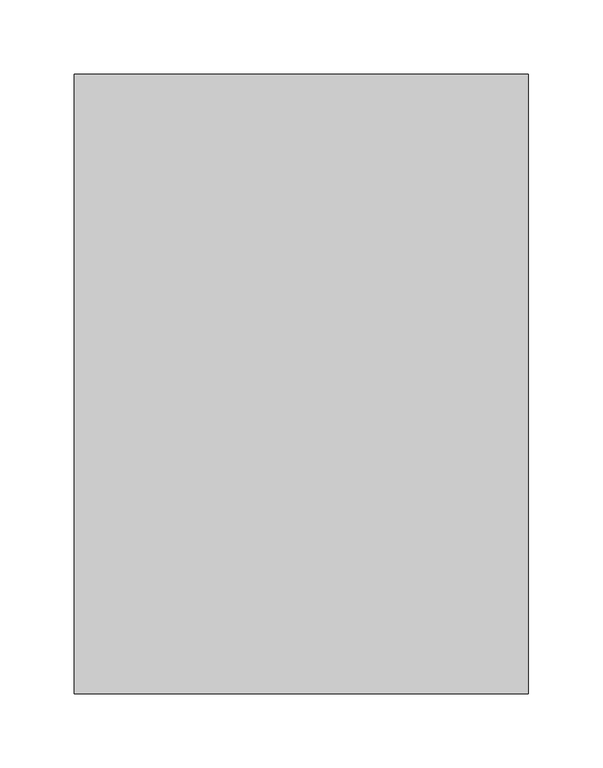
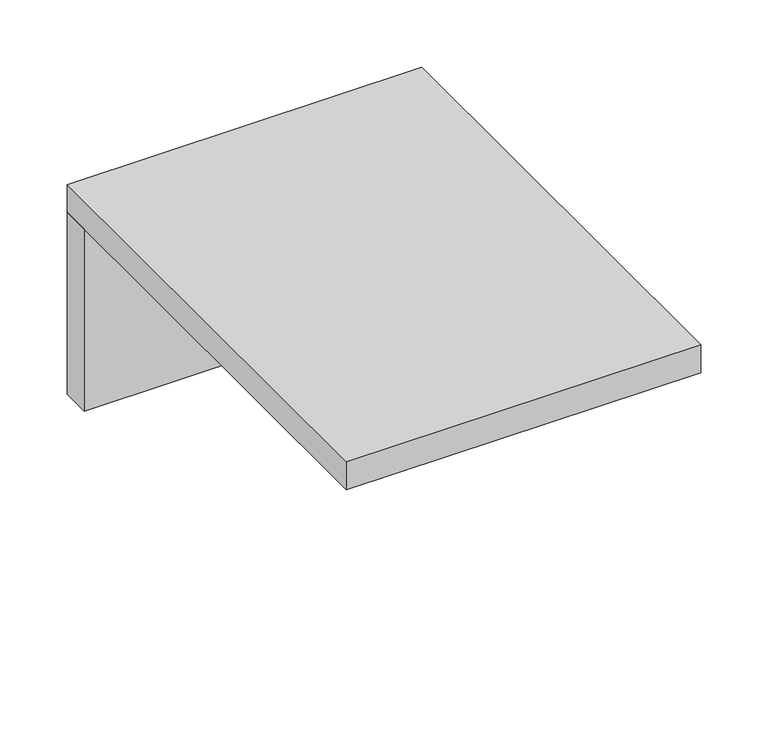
"""IFC4 building model written with IfcOpenShell, lengths in millimetres: furniture geometry."""

from ifc_helpers import new_model, si_unit, frame, origin, place, context, project, spatial, polyline, outline, extrude, source, transform, mapped, element, save


def furniture_dabdfb29(model_context):
    return source(origin(), model_context, "Body", "SweptSolid", [
        extrude(outline(polyline([(152.4, 207.9625), (152.4, 182.5625), (-152.4, 182.5625), (-152.4, 207.9625), (152.4, 207.9625)])), frame((0.0, 0.0, 889.0), z_axis=(0.0, 0.0, 1.0), x_axis=(1.0, 0.0, 0.0)), (0.0, 0.0, 1.0), 165.1),
        extrude(outline(polyline([(152.4, -207.9625), (-152.4, -207.9625), (-152.4, 207.9625), (152.4, 207.9625), (152.4, -207.9625)])), frame((0.0, 0.0, 1054.1), z_axis=(0.0, 0.0, 1.0), x_axis=(1.0, 0.0, 0.0)), (0.0, 0.0, 1.0), 25.4),
    ])


if __name__ == "__main__":
    model = new_model("IFC4")
    model_context = context("Model", 3, world=origin())
    ifc_project = project(units=[si_unit("LENGTHUNIT", "METRE", prefix="MILLI")], contexts=[model_context])
    site = spatial("IfcSite", under=ifc_project)
    building = spatial("IfcBuilding", under=site)
    placement = place(None, origin())
    furniture_shape = furniture_dabdfb29(model_context)
    element("IfcFurniture", 1, ObjectType="HermanMiller_Ethospace_E2830_SqEdgeCounterTop : 7-1/2\"H x 16-3/8\"D x 12\"W", at=placement, inside=building, context=model_context, shape_type="MappedRepresentation", body=[
        mapped(furniture_shape, transform((0.0, 0.0, 0.0), x_axis=(1.0, 0.0, 0.0), y_axis=(0.0, 1.0, 0.0), z_axis=(0.0, 0.0, 1.0))),
    ])
    save(model, "model.ifc")
